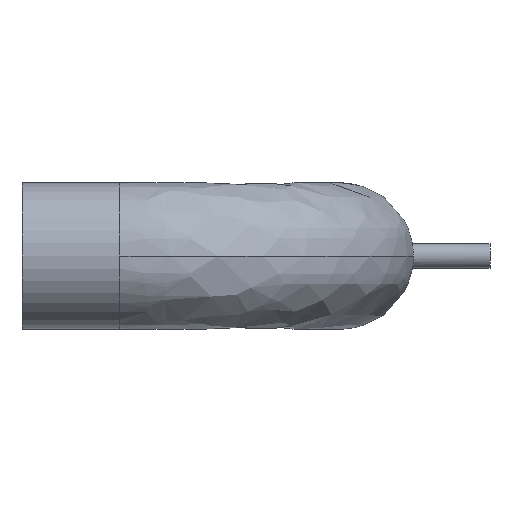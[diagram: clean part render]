
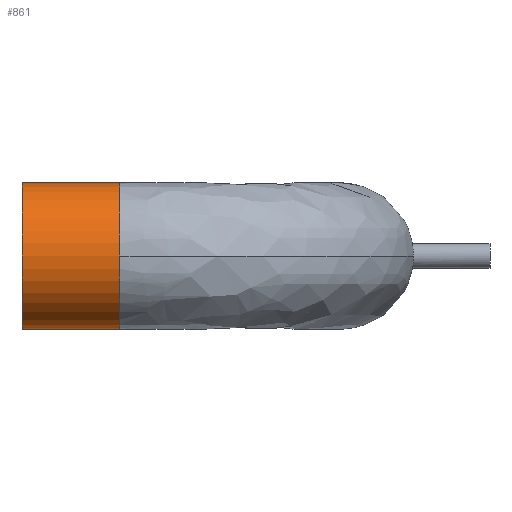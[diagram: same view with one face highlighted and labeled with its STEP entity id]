
A CAD part, left-side view. The second image highlights one B-rep face of the part: STEP entity #861.
In plain terms, the highlighted cylindrical face has radius 38.1 mm (diameter 76.2 mm), a partial arc.
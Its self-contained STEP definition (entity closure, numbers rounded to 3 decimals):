
#14 = VECTOR ( 'NONE', #88, 1000. ) ;
#23 = LINE ( 'NONE', #778, #14 ) ;
#29 = DIRECTION ( 'NONE',  ( 0., -1., 0. ) ) ;
#43 = CYLINDRICAL_SURFACE ( 'NONE', #758, 38.1 ) ;
#48 = DIRECTION ( 'NONE',  ( 0., 0., 1. ) ) ;
#88 = DIRECTION ( 'NONE',  ( 0., 1., 0. ) ) ;
#120 = CARTESIAN_POINT ( 'NONE',  ( -152.4, 114.3, 0. ) ) ;
#147 = AXIS2_PLACEMENT_3D ( 'NONE', #866, #844, #858 ) ;
#161 = VECTOR ( 'NONE', #509, 1000. ) ;
#187 = EDGE_CURVE ( 'NONE', #740, #190, #580, .T. ) ;
#190 = VERTEX_POINT ( 'NONE', #120 ) ;
#231 = CARTESIAN_POINT ( 'NONE',  ( -114.3, 114.3, -38.1 ) ) ;
#261 = VERTEX_POINT ( 'NONE', #697 ) ;
#295 = CARTESIAN_POINT ( 'NONE',  ( -114.3, 165.1, -38.1 ) ) ;
#312 = VERTEX_POINT ( 'NONE', #507 ) ;
#315 = ORIENTED_EDGE ( 'NONE', *, *, #764, .T. ) ;
#322 = EDGE_CURVE ( 'NONE', #261, #780, #715, .T. ) ;
#340 = ORIENTED_EDGE ( 'NONE', *, *, #322, .F. ) ;
#348 = ORIENTED_EDGE ( 'NONE', *, *, #389, .F. ) ;
#359 = EDGE_LOOP ( 'NONE', ( #340, #348, #362, #380, #315 ) ) ;
#362 = ORIENTED_EDGE ( 'NONE', *, *, #187, .F. ) ;
#380 = ORIENTED_EDGE ( 'NONE', *, *, #438, .T. ) ;
#389 = EDGE_CURVE ( 'NONE', #190, #261, #535, .T. ) ;
#438 = EDGE_CURVE ( 'NONE', #740, #312, #23, .T. ) ;
#507 = CARTESIAN_POINT ( 'NONE',  ( -114.3, 165.1, 38.1 ) ) ;
#509 = DIRECTION ( 'NONE',  ( 0., 1., 0. ) ) ;
#535 = CIRCLE ( 'NONE', #807, 38.1 ) ;
#579 = CARTESIAN_POINT ( 'NONE',  ( -114.3, 114.3, 0. ) ) ;
#580 = CIRCLE ( 'NONE', #864, 38.1 ) ;
#602 = CARTESIAN_POINT ( 'NONE',  ( -114.3, 114.3, 38.1 ) ) ;
#697 = CARTESIAN_POINT ( 'NONE',  ( -114.3, 114.3, -38.1 ) ) ;
#699 = DIRECTION ( 'NONE',  ( -1., 0., 0. ) ) ;
#715 = LINE ( 'NONE', #231, #161 ) ;
#727 = CARTESIAN_POINT ( 'NONE',  ( -114.3, 114.3, 0. ) ) ;
#740 = VERTEX_POINT ( 'NONE', #602 ) ;
#744 = FACE_OUTER_BOUND ( 'NONE', #359, .T. ) ;
#758 = AXIS2_PLACEMENT_3D ( 'NONE', #839, #791, #48 ) ;
#764 = EDGE_CURVE ( 'NONE', #312, #780, #835, .T. ) ;
#778 = CARTESIAN_POINT ( 'NONE',  ( -114.3, 114.3, 38.1 ) ) ;
#780 = VERTEX_POINT ( 'NONE', #295 ) ;
#789 = DIRECTION ( 'NONE',  ( 0., -1., 0. ) ) ;
#791 = DIRECTION ( 'NONE',  ( 0., 1., 0. ) ) ;
#807 = AXIS2_PLACEMENT_3D ( 'NONE', #727, #789, #699 ) ;
#835 = CIRCLE ( 'NONE', #147, 38.1 ) ;
#839 = CARTESIAN_POINT ( 'NONE',  ( -114.3, 114.3, 0. ) ) ;
#841 = DIRECTION ( 'NONE',  ( -1., 0., 0. ) ) ;
#844 = DIRECTION ( 'NONE',  ( 0., -1., 0. ) ) ;
#858 = DIRECTION ( 'NONE',  ( 0., 0., 1. ) ) ;
#861 = ADVANCED_FACE ( 'NONE', ( #744 ), #43, .T. ) ;
#864 = AXIS2_PLACEMENT_3D ( 'NONE', #579, #29, #841 ) ;
#866 = CARTESIAN_POINT ( 'NONE',  ( -114.3, 165.1, 0. ) ) ;
